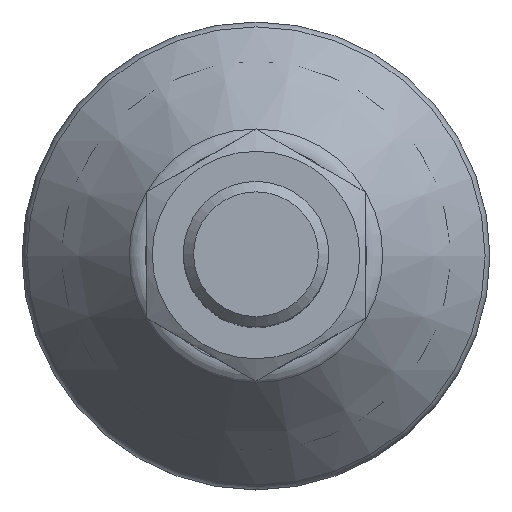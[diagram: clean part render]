
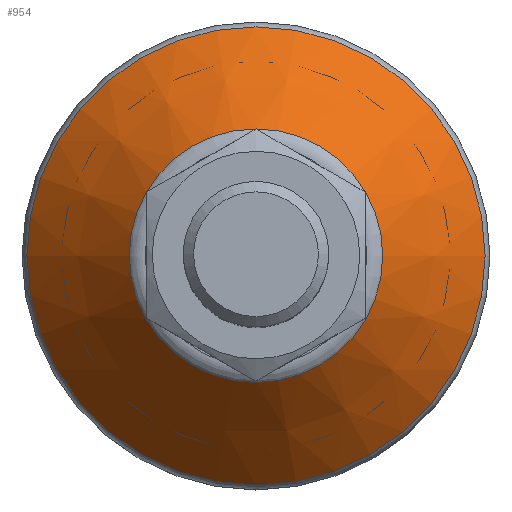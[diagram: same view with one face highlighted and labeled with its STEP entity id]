
A CAD part, top view. The second image highlights one B-rep face of the part: STEP entity #954.
In plain terms, the highlighted conical face has half-angle 40 degrees and reference radius 17.112 mm.
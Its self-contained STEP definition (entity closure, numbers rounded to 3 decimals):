
#954=ADVANCED_FACE('',(#2079,#2081),#2083,.T.);
#2079=FACE_BOUND('',#2080,.T.);
#2080=EDGE_LOOP('',(#3017,#3018));
#2081=FACE_BOUND('',#2082,.T.);
#2082=EDGE_LOOP('',(#3019,#3020));
#2083=CONICAL_SURFACE('',#2084,17.112,0.698);
#2084=AXIS2_PLACEMENT_3D('',#2085,#2086,#2087);
#2085=CARTESIAN_POINT('',(0.,0.,11.422));
#2086=DIRECTION('',(0.,0.,-1.));
#2087=DIRECTION('',(1.,0.,0.));
#3017=ORIENTED_EDGE('',*,*,#3511,.T.);
#3018=ORIENTED_EDGE('',*,*,#3510,.T.);
#3019=ORIENTED_EDGE('',*,*,#3514,.F.);
#3020=ORIENTED_EDGE('',*,*,#3515,.F.);
#3510=EDGE_CURVE('',#4040,#4041,#4042,.T.);
#3511=EDGE_CURVE('',#4041,#4040,#4043,.T.);
#3514=EDGE_CURVE('',#4048,#4049,#4050,.T.);
#3515=EDGE_CURVE('',#4049,#4048,#4051,.T.);
#4040=VERTEX_POINT('',#6469);
#4041=VERTEX_POINT('',#6470);
#4042=CIRCLE('',#6471,22.032);
#4043=CIRCLE('',#6475,22.032);
#4048=VERTEX_POINT('',#6489);
#4049=VERTEX_POINT('',#6490);
#4050=CIRCLE('',#6491,12.191);
#4051=CIRCLE('',#6495,12.191);
#6469=CARTESIAN_POINT('',(-22.032,0.,5.558));
#6470=CARTESIAN_POINT('',(22.032,0.,5.558));
#6471=AXIS2_PLACEMENT_3D('',#6472,#6473,#6474);
#6472=CARTESIAN_POINT('',(0.,0.,5.558));
#6473=DIRECTION('',(0.,0.,1.));
#6474=DIRECTION('',(-1.,0.,0.));
#6475=AXIS2_PLACEMENT_3D('',#6476,#6477,#6478);
#6476=CARTESIAN_POINT('',(0.,0.,5.558));
#6477=DIRECTION('',(0.,0.,1.));
#6478=DIRECTION('',(1.,0.,0.));
#6489=CARTESIAN_POINT('',(-12.191,0.,17.286));
#6490=CARTESIAN_POINT('',(12.191,0.,17.286));
#6491=AXIS2_PLACEMENT_3D('',#6492,#6493,#6494);
#6492=CARTESIAN_POINT('',(0.,0.,17.286));
#6493=DIRECTION('',(0.,0.,1.));
#6494=DIRECTION('',(-1.,0.,0.));
#6495=AXIS2_PLACEMENT_3D('',#6496,#6497,#6498);
#6496=CARTESIAN_POINT('',(0.,0.,17.286));
#6497=DIRECTION('',(0.,0.,1.));
#6498=DIRECTION('',(1.,0.,0.));
